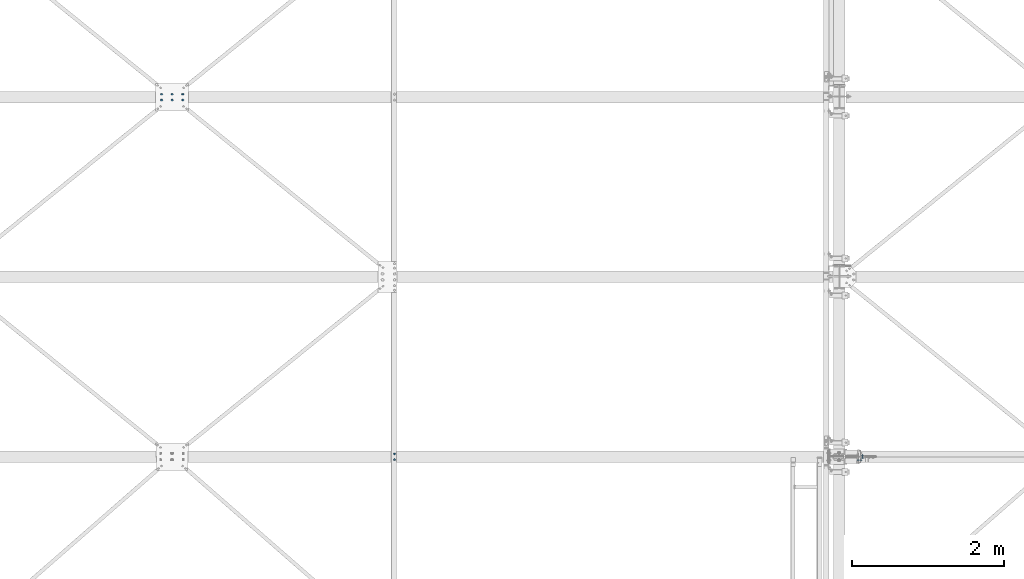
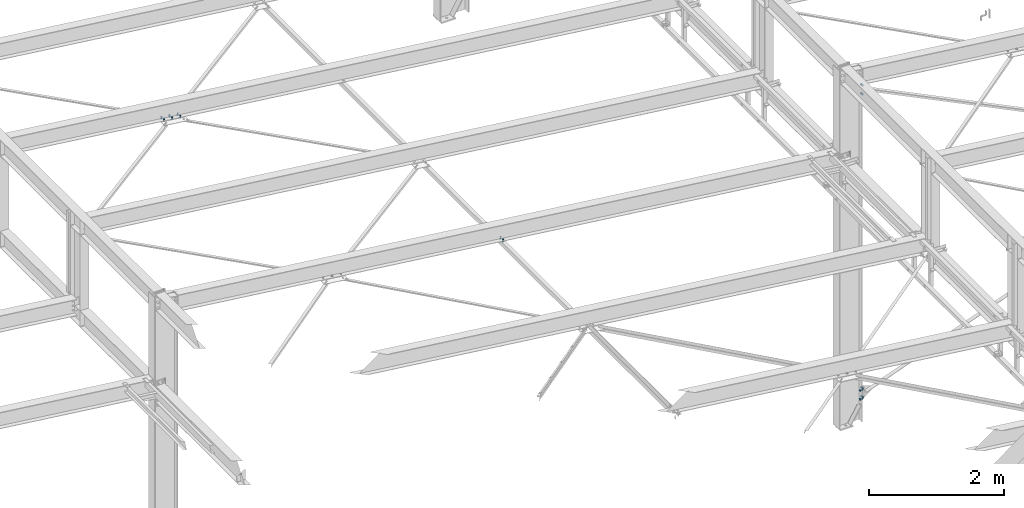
# One storey, part 115 of 3134: 5 mechanical fasteners, 4 elements without a shape of their own.
"""IFC2X3 building model written with IfcOpenShell, lengths in millimetres."""

from ifc_helpers import new_model, si_unit, frame, origin_with_axes, place, context, subcontext, project, spatial, faceted_brep, source, transform, mapped, material, type_object, element, aggregate, save


model = new_model("IFC2X3")

# Units and contexts
model_context = context("Model", 3, precision=1e-05, world=origin_with_axes())
body_context = subcontext(model_context, "Body", "Model", "MODEL_VIEW")
ifc_project = project(units=[si_unit("LENGTHUNIT", "METRE", prefix="MILLI"), si_unit("AREAUNIT", "SQUARE_METRE"), si_unit("VOLUMEUNIT", "CUBIC_METRE"), si_unit("MASSUNIT", "GRAM", prefix="KILO"), si_unit("TIMEUNIT", "SECOND"), si_unit("PLANEANGLEUNIT", "RADIAN"), si_unit("SOLIDANGLEUNIT", "STERADIAN"), si_unit("THERMODYNAMICTEMPERATUREUNIT", "DEGREE_CELSIUS"), si_unit("LUMINOUSINTENSITYUNIT", "LUMEN")], contexts=[model_context])

# Site, building, storey
site_placement = place(None, origin_with_axes())
site = spatial("IfcSite", under=ifc_project, at=site_placement, CompositionType="ELEMENT")
building_placement = place(site_placement, origin_with_axes())
building = spatial("IfcBuilding", under=site, at=building_placement, Name="Undefined", CompositionType="ELEMENT")
storey_placement = place(building_placement, origin_with_axes())
storey = spatial("IfcBuildingStorey", under=building, at=storey_placement, Name="Undefined", CompositionType="ELEMENT", Elevation=0.0)

# Assembly, mechanical fastener
assembly_1_placement = place(storey_placement, origin_with_axes())
assembly_1 = element("IfcElementAssembly", 1, at=assembly_1_placement, inside=storey, AssemblyPlace="NOTDEFINED", PredefinedType="RIGID_FRAME")
ifc_material = material(Name="8.8")
mechanical_fastener_type = type_object("IfcMechanicalFastenerType", Name="Bolt assembly")
shared_shape_1 = source(origin_with_axes(), body_context, "Body", "Brep", [
    faceted_brep([(13.856406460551, -19.199990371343, 0.0), (6.92820323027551, -19.199990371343, 12.0), (-6.92820323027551, -19.199990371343, 12.0), (-13.856406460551, -19.199990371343, 1.69692038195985e-15), (-6.92820323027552, -19.199990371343, -12.0), (6.9282032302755, -19.199990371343, -12.0), (6.9282032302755, -9.19999037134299, -12.0), (-6.92820323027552, -9.19999037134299, -12.0), (-13.856406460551, -9.19999037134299, 1.69692038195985e-15), (-6.92820323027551, -9.19999037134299, 12.0), (6.92820323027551, -9.19999037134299, 12.0), (13.856406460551, -9.19999037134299, 0.0), (8.0, -9.19999037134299, 0.0), (6.92820323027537, -9.19999037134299, 4.00000000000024), (3.99999999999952, -9.19999037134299, 6.92820323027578), (-8.29068785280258e-13, -9.19999037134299, 8.0), (-4.00000000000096, -9.19999037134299, 6.92820323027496), (-6.9282032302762, -9.19999037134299, 3.99999999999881), (-8.0, -9.19999037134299, -1.65813757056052e-12), (-6.92820323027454, -9.19999037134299, -4.00000000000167), (-3.99999999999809, -9.19999037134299, -6.92820323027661), (2.47832457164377e-12, -9.19999037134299, -8.0), (4.00000000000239, -9.19999037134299, -6.92820323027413), (6.92820323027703, -9.19999037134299, -3.99999999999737), (6.92820323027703, 35.8000002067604, -3.99999999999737), (4.00000000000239, 35.8000002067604, -6.92820323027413), (2.47832457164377e-12, 35.8000002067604, -8.0), (-3.99999999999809, 35.8000002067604, -6.92820323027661), (-6.92820323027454, 35.8000002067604, -4.00000000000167), (-8.0, 35.8000002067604, -1.65813757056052e-12), (-6.9282032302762, 35.8000002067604, 3.99999999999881), (-4.00000000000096, 35.8000002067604, 6.92820323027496), (-8.29068785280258e-13, 35.8000002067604, 8.0), (3.99999999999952, 35.8000002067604, 6.92820323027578), (6.92820323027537, 35.8000002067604, 4.00000000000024), (8.0, 35.8000002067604, 0.0), (13.856406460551, 14.9999995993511, 0.0), (6.92820323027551, 14.9999995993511, 12.0), (-6.92820323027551, 14.9999995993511, 12.0), (-13.856406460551, 14.9999995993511, 1.69692038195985e-15), (-6.92820323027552, 14.9999995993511, -12.0), (6.9282032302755, 14.9999995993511, -12.0), (6.9282032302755, 27.9999995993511, -12.0), (-6.92820323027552, 27.9999995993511, -12.0), (-13.856406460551, 27.9999995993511, 1.69692038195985e-15), (-6.92820323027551, 27.9999995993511, 12.0), (6.92820323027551, 27.9999995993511, 12.0), (13.856406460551, 27.9999995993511, 0.0)], [[[0, 1, 2, 3, 4, 5]], [[6, 7, 8, 9, 10, 11]], [[0, 11, 10, 1]], [[1, 10, 9, 2]], [[2, 9, 8, 3]], [[3, 8, 7, 4]], [[4, 7, 6, 5]], [[5, 6, 11, 0]], [[12, 13, 14, 15, 16, 17, 18, 19, 20, 21, 22, 23]], [[24, 25, 26, 27, 28, 29, 30, 31, 32, 33, 34, 35]], [[12, 35, 34, 13]], [[13, 34, 33, 14]], [[14, 33, 32, 15]], [[15, 32, 31, 16]], [[16, 31, 30, 17]], [[17, 30, 29, 18]], [[18, 29, 28, 19]], [[19, 28, 27, 20]], [[20, 27, 26, 21]], [[21, 26, 25, 22]], [[22, 25, 24, 23]], [[23, 24, 35, 12]], [[36, 37, 38, 39, 40, 41]], [[42, 43, 44, 45, 46, 47]], [[36, 47, 46, 37]], [[37, 46, 45, 38]], [[38, 45, 44, 39]], [[39, 44, 43, 40]], [[40, 43, 42, 41]], [[41, 42, 47, 36]]]),
    faceted_brep([(9.0, -9.09999037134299, 0.0), (7.79422863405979, -9.09999037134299, 4.50000000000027), (4.49999999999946, -9.09999037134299, 7.79422863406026), (-9.3270238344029e-13, -9.09999037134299, 9.0), (-4.50000000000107, -9.09999037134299, 7.79422863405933), (-7.79422863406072, -9.09999037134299, 4.49999999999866), (-9.0, -9.09999037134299, -1.86540476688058e-12), (-7.79422863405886, -9.09999037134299, -4.50000000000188), (-4.49999999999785, -9.09999037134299, -7.79422863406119), (2.78811514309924e-12, -9.09999037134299, -9.0), (4.50000000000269, -9.09999037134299, -7.7942286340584), (7.79422863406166, -9.09999037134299, -4.49999999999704), (7.79422863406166, 0.100000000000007, -4.49999999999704), (4.50000000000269, 0.100000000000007, -7.7942286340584), (2.78811514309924e-12, 0.100000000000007, -9.0), (-4.49999999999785, 0.100000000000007, -7.79422863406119), (-7.79422863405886, 0.100000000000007, -4.50000000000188), (-9.0, 0.100000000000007, -1.86540476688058e-12), (-7.79422863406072, 0.100000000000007, 4.49999999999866), (-4.50000000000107, 0.100000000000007, 7.79422863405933), (-9.3270238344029e-13, 0.100000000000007, 9.0), (4.49999999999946, 0.100000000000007, 7.79422863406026), (7.79422863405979, 0.100000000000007, 4.50000000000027), (9.0, 0.100000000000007, 0.0), (9.0, 7.9, 0.0), (7.79422863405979, 7.9, 4.50000000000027), (4.49999999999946, 7.9, 7.79422863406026), (-9.3270238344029e-13, 7.9, 9.0), (-4.50000000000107, 7.9, 7.79422863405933), (-7.79422863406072, 7.9, 4.49999999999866), (-9.0, 7.9, -1.86540476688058e-12), (-7.79422863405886, 7.9, -4.50000000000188), (-4.49999999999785, 7.9, -7.79422863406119), (2.78811514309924e-12, 7.9, -9.0), (4.50000000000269, 7.9, -7.7942286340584), (7.79422863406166, 7.9, -4.49999999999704), (7.79422863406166, 14.9999995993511, -4.49999999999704), (4.50000000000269, 14.9999995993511, -7.7942286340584), (2.78811514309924e-12, 14.9999995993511, -9.0), (-4.49999999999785, 14.9999995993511, -7.79422863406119), (-7.79422863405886, 14.9999995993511, -4.50000000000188), (-9.0, 14.9999995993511, -1.86540476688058e-12), (-7.79422863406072, 14.9999995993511, 4.49999999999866), (-4.50000000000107, 14.9999995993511, 7.79422863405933), (-9.3270238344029e-13, 14.9999995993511, 9.0), (4.49999999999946, 14.9999995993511, 7.79422863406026), (7.79422863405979, 14.9999995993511, 4.50000000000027), (9.0, 14.9999995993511, 0.0)], [[[0, 1, 2, 3, 4, 5, 6, 7, 8, 9, 10, 11]], [[12, 13, 14, 15, 16, 17, 18, 19, 20, 21, 22, 23]], [[0, 23, 22, 1]], [[1, 22, 21, 2]], [[2, 21, 20, 3]], [[3, 20, 19, 4]], [[4, 19, 18, 5]], [[5, 18, 17, 6]], [[6, 17, 16, 7]], [[7, 16, 15, 8]], [[8, 15, 14, 9]], [[9, 14, 13, 10]], [[10, 13, 12, 11]], [[11, 12, 23, 0]], [[24, 25, 26, 27, 28, 29, 30, 31, 32, 33, 34, 35]], [[36, 37, 38, 39, 40, 41, 42, 43, 44, 45, 46, 47]], [[24, 47, 46, 25]], [[25, 46, 45, 26]], [[26, 45, 44, 27]], [[27, 44, 43, 28]], [[28, 43, 42, 29]], [[29, 42, 41, 30]], [[30, 41, 40, 31]], [[31, 40, 39, 32]], [[32, 39, 38, 33]], [[33, 38, 37, 34]], [[34, 37, 36, 35]], [[35, 36, 47, 24]]]),
])
mechanical_fastener_1_placement = place(assembly_1_placement, frame((38362.9849612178, 7612.0, 4806.73358921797), z_axis=(-0.992623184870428, 0.0, 0.121240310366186), x_axis=(0.0, 1.0, 0.0)))
mechanical_fastener_1 = element("IfcMechanicalFastener", 2, at=mechanical_fastener_1_placement, type_object=mechanical_fastener_type, material=ifc_material, Name="Bolt assembly", NominalDiameter=16.0, NominalLength=45.0, context=body_context, shape_type="MappedRepresentation", body=[
    mapped(shared_shape_1, transform((0.0, 0.0, 0.0))),
    mapped(shared_shape_1, transform((76.0, 0.0, 0.0))),
])
aggregate(assembly_1, [mechanical_fastener_1])

assembly_2_placement = place(storey_placement, origin_with_axes())
assembly_2 = element("IfcElementAssembly", 3, at=assembly_2_placement, inside=storey, Name="300", AssemblyPlace="NOTDEFINED", PredefinedType="RIGID_FRAME")
shared_shape_2 = source(origin_with_axes(), body_context, "Body", "Brep", [
    faceted_brep([(10.9696551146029, -17.1999998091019, 0.0), (5.48482755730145, -17.1999998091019, 9.5), (-5.48482755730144, -17.1999998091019, 9.5), (-10.9696551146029, -17.1999998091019, 1.34339530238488e-15), (-5.48482755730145, -17.1999998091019, -9.5), (5.48482755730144, -17.1999998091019, -9.50000000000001), (5.48482755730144, -9.19999978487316, -9.50000000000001), (-5.48482755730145, -9.19999978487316, -9.5), (-10.9696551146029, -9.19999978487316, 1.34339530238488e-15), (-5.48482755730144, -9.19999978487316, 9.5), (5.48482755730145, -9.19999978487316, 9.5), (10.9696551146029, -9.19999978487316, 0.0), (6.0, -9.19999978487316, 0.0), (5.19615242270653, -9.19999978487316, 3.00000000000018), (2.99999999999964, -9.19999978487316, 5.19615242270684), (-6.21801588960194e-13, -9.19999978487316, 6.0), (-3.00000000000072, -9.19999978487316, 5.19615242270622), (-5.19615242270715, -9.19999978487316, 2.9999999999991), (-6.0, -9.19999978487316, -1.24360317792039e-12), (-5.19615242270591, -9.19999978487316, -3.00000000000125), (-2.99999999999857, -9.19999978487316, -5.19615242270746), (1.85874342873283e-12, -9.19999978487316, -6.0), (3.00000000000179, -9.19999978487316, -5.1961524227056), (5.19615242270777, -9.19999978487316, -2.99999999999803), (5.19615242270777, 25.8000002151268, -2.99999999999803), (3.00000000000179, 25.8000002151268, -5.1961524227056), (1.85874342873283e-12, 25.8000002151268, -6.0), (-2.99999999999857, 25.8000002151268, -5.19615242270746), (-5.19615242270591, 25.8000002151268, -3.00000000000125), (-6.0, 25.8000002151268, -1.24360317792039e-12), (-5.19615242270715, 25.8000002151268, 2.9999999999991), (-3.00000000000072, 25.8000002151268, 5.19615242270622), (-6.21801588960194e-13, 25.8000002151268, 6.0), (2.99999999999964, 25.8000002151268, 5.19615242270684), (5.19615242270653, 25.8000002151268, 3.00000000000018), (6.0, 25.8000002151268, 0.0), (10.9696551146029, 8.0, 0.0), (5.48482755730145, 8.0, 9.5), (-5.48482755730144, 8.0, 9.5), (-10.9696551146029, 8.0, 1.34339530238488e-15), (-5.48482755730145, 8.0, -9.5), (5.48482755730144, 8.0, -9.50000000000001), (5.48482755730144, 18.0, -9.50000000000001), (-5.48482755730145, 18.0, -9.5), (-10.9696551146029, 18.0, 1.34339530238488e-15), (-5.48482755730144, 18.0, 9.5), (5.48482755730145, 18.0, 9.5), (10.9696551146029, 18.0, 0.0)], [[[0, 1, 2, 3, 4, 5]], [[6, 7, 8, 9, 10, 11]], [[0, 11, 10, 1]], [[1, 10, 9, 2]], [[2, 9, 8, 3]], [[3, 8, 7, 4]], [[4, 7, 6, 5]], [[5, 6, 11, 0]], [[12, 13, 14, 15, 16, 17, 18, 19, 20, 21, 22, 23]], [[24, 25, 26, 27, 28, 29, 30, 31, 32, 33, 34, 35]], [[12, 35, 34, 13]], [[13, 34, 33, 14]], [[14, 33, 32, 15]], [[15, 32, 31, 16]], [[16, 31, 30, 17]], [[17, 30, 29, 18]], [[18, 29, 28, 19]], [[19, 28, 27, 20]], [[20, 27, 26, 21]], [[21, 26, 25, 22]], [[22, 25, 24, 23]], [[23, 24, 35, 12]], [[36, 37, 38, 39, 40, 41]], [[42, 43, 44, 45, 46, 47]], [[36, 47, 46, 37]], [[37, 46, 45, 38]], [[38, 45, 44, 39]], [[39, 44, 43, 40]], [[40, 43, 42, 41]], [[41, 42, 47, 36]]]),
    faceted_brep([(7.0, -0.1, 0.0), (6.06217782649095, -0.1, 3.50000000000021), (3.49999999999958, -0.1, 6.06217782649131), (-7.25435187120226e-13, -0.1, 7.0), (-3.50000000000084, -0.1, 6.06217782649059), (-6.06217782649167, -0.1, 3.49999999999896), (-7.0, -0.1, -1.45087037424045e-12), (-6.06217782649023, -0.1, -3.50000000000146), (-3.49999999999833, -0.1, -6.06217782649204), (2.1685340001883e-12, -0.1, -7.0), (3.50000000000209, -0.1, -6.06217782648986), (6.0621778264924, -0.1, -3.4999999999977), (6.0621778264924, 8.0000000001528, -3.4999999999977), (3.50000000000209, 8.0000000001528, -6.06217782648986), (2.1685340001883e-12, 8.0000000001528, -7.0), (-3.49999999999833, 8.0000000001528, -6.06217782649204), (-6.06217782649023, 8.0000000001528, -3.50000000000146), (-7.0, 8.0000000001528, -1.45087037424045e-12), (-6.06217782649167, 8.0000000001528, 3.49999999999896), (-3.50000000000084, 8.0000000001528, 6.06217782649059), (-7.25435187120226e-13, 8.0000000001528, 7.0), (3.49999999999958, 8.0000000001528, 6.06217782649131), (6.06217782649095, 8.0000000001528, 3.50000000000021), (7.0, 8.0000000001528, 0.0), (7.0, -9.09999980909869, 0.0), (6.06217782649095, -9.09999980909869, 3.50000000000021), (3.49999999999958, -9.09999980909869, 6.06217782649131), (-7.25435187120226e-13, -9.09999980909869, 7.0), (-3.50000000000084, -9.09999980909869, 6.06217782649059), (-6.06217782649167, -9.09999980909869, 3.49999999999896), (-7.0, -9.09999980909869, -1.45087037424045e-12), (-6.06217782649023, -9.09999980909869, -3.50000000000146), (-3.49999999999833, -9.09999980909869, -6.06217782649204), (2.1685340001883e-12, -9.09999980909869, -7.0), (3.50000000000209, -9.09999980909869, -6.06217782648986), (6.0621778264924, -9.09999980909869, -3.4999999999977), (6.0621778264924, 0.0999999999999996, -3.4999999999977), (3.50000000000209, 0.0999999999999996, -6.06217782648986), (2.1685340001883e-12, 0.0999999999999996, -7.0), (-3.49999999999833, 0.0999999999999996, -6.06217782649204), (-6.06217782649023, 0.0999999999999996, -3.50000000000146), (-7.0, 0.0999999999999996, -1.45087037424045e-12), (-6.06217782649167, 0.0999999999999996, 3.49999999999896), (-3.50000000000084, 0.0999999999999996, 6.06217782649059), (-7.25435187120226e-13, 0.0999999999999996, 7.0), (3.49999999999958, 0.0999999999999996, 6.06217782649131), (6.06217782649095, 0.0999999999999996, 3.50000000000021), (7.0, 0.0999999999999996, 0.0)], [[[0, 1, 2, 3, 4, 5, 6, 7, 8, 9, 10, 11]], [[12, 13, 14, 15, 16, 17, 18, 19, 20, 21, 22, 23]], [[0, 23, 22, 1]], [[1, 22, 21, 2]], [[2, 21, 20, 3]], [[3, 20, 19, 4]], [[4, 19, 18, 5]], [[5, 18, 17, 6]], [[6, 17, 16, 7]], [[7, 16, 15, 8]], [[8, 15, 14, 9]], [[9, 14, 13, 10]], [[10, 13, 12, 11]], [[11, 12, 23, 0]], [[24, 25, 26, 27, 28, 29, 30, 31, 32, 33, 34, 35]], [[36, 37, 38, 39, 40, 41, 42, 43, 44, 45, 46, 47]], [[24, 47, 46, 25]], [[25, 46, 45, 26]], [[26, 45, 44, 27]], [[27, 44, 43, 28]], [[28, 43, 42, 29]], [[29, 42, 41, 30]], [[30, 41, 40, 31]], [[31, 40, 39, 32]], [[32, 39, 38, 33]], [[33, 38, 37, 34]], [[34, 37, 36, 35]], [[35, 36, 47, 24]]]),
])
mechanical_fastener_2_placement = place(assembly_2_placement, frame((35583.2022067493, 12370.0, 5146.259936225), z_axis=(0.0, -1.0, 0.0), x_axis=(-0.992623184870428, 0.0, 0.121240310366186)))
mechanical_fastener_2 = element("IfcMechanicalFastener", 4, at=mechanical_fastener_2_placement, type_object=mechanical_fastener_type, material=ifc_material, Name="Bolt assembly", NominalDiameter=12.0, NominalLength=35.0, context=body_context, shape_type="MappedRepresentation", body=[
    mapped(shared_shape_2, transform((0.0, 0.0, -38.0))),
    mapped(shared_shape_2, transform((140.000000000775, 5.85714587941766e-10, -38.0))),
    mapped(shared_shape_2, transform((279.999999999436, -4.74756234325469e-10, -38.0))),
    mapped(shared_shape_2, transform((0.0, 0.0, 38.0))),
    mapped(shared_shape_2, transform((140.000000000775, 5.85714587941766e-10, 38.0))),
    mapped(shared_shape_2, transform((279.999999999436, -4.74756234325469e-10, 38.0))),
])
aggregate(assembly_2, [mechanical_fastener_2])

assembly_3_placement = place(storey_placement, origin_with_axes())
assembly_3 = element("IfcElementAssembly", 5, at=assembly_3_placement, inside=storey, AssemblyPlace="NOTDEFINED", PredefinedType="RIGID_FRAME")
shared_shape_3 = source(origin_with_axes(), body_context, "Body", "Brep", [
    faceted_brep([(13.856406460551, -21.0000017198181, 0.0), (6.92820323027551, -21.0000017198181, 12.0), (-6.92820323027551, -21.0000017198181, 12.0), (-13.856406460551, -21.0000017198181, 1.69692038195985e-15), (-6.92820323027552, -21.0000017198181, -12.0), (6.9282032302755, -21.0000017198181, -12.0), (6.9282032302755, -11.0000017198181, -12.0), (-6.92820323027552, -11.0000017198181, -12.0), (-13.856406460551, -11.0000017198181, 1.69692038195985e-15), (-6.92820323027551, -11.0000017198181, 12.0), (6.92820323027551, -11.0000017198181, 12.0), (13.856406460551, -11.0000017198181, 0.0), (8.0, -11.0000017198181, 0.0), (6.92820323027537, -11.0000017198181, 4.00000000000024), (3.99999999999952, -11.0000017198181, 6.92820323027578), (-8.29068785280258e-13, -11.0000017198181, 8.0), (-4.00000000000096, -11.0000017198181, 6.92820323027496), (-6.9282032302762, -11.0000017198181, 3.99999999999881), (-8.0, -11.0000017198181, -1.65813757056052e-12), (-6.92820323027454, -11.0000017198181, -4.00000000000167), (-3.99999999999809, -11.0000017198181, -6.92820323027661), (2.47832457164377e-12, -11.0000017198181, -8.0), (4.00000000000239, -11.0000017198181, -6.92820323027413), (6.92820323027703, -11.0000017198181, -3.99999999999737), (6.92820323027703, 29.0, -3.99999999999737), (4.00000000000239, 29.0, -6.92820323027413), (2.47832457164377e-12, 29.0, -8.0), (-3.99999999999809, 29.0, -6.92820323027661), (-6.92820323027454, 29.0, -4.00000000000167), (-8.0, 29.0, -1.65813757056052e-12), (-6.9282032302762, 29.0, 3.99999999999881), (-4.00000000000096, 29.0, 6.92820323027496), (-8.29068785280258e-13, 29.0, 8.0), (3.99999999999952, 29.0, 6.92820323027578), (6.92820323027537, 29.0, 4.00000000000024), (8.0, 29.0, 0.0), (13.856406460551, 10.9999982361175, 0.0), (6.92820323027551, 10.9999982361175, 12.0), (-6.92820323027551, 10.9999982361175, 12.0), (-13.856406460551, 10.9999982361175, 1.69692038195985e-15), (-6.92820323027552, 10.9999982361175, -12.0), (6.9282032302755, 10.9999982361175, -12.0), (6.9282032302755, 23.9999999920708, -12.0), (-6.92820323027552, 23.9999999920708, -12.0), (-13.856406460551, 23.9999999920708, 1.69692038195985e-15), (-6.92820323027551, 23.9999999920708, 12.0), (6.92820323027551, 23.9999999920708, 12.0), (13.856406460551, 23.9999999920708, 0.0)], [[[0, 1, 2, 3, 4, 5]], [[6, 7, 8, 9, 10, 11]], [[0, 11, 10, 1]], [[1, 10, 9, 2]], [[2, 9, 8, 3]], [[3, 8, 7, 4]], [[4, 7, 6, 5]], [[5, 6, 11, 0]], [[12, 13, 14, 15, 16, 17, 18, 19, 20, 21, 22, 23]], [[24, 25, 26, 27, 28, 29, 30, 31, 32, 33, 34, 35]], [[12, 35, 34, 13]], [[13, 34, 33, 14]], [[14, 33, 32, 15]], [[15, 32, 31, 16]], [[16, 31, 30, 17]], [[17, 30, 29, 18]], [[18, 29, 28, 19]], [[19, 28, 27, 20]], [[20, 27, 26, 21]], [[21, 26, 25, 22]], [[22, 25, 24, 23]], [[23, 24, 35, 12]], [[36, 37, 38, 39, 40, 41]], [[42, 43, 44, 45, 46, 47]], [[36, 47, 46, 37]], [[37, 46, 45, 38]], [[38, 45, 44, 39]], [[39, 44, 43, 40]], [[40, 43, 42, 41]], [[41, 42, 47, 36]]]),
    faceted_brep([(9.0, -3.99999624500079, 0.0), (7.79422863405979, -3.99999624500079, 4.50000000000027), (4.49999999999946, -3.99999624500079, 7.79422863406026), (-9.3270238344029e-13, -3.99999624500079, 9.0), (-4.50000000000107, -3.99999624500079, 7.79422863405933), (-7.79422863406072, -3.99999624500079, 4.49999999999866), (-9.0, -3.99999624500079, -1.86540476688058e-12), (-7.79422863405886, -3.99999624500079, -4.50000000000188), (-4.49999999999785, -3.99999624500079, -7.79422863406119), (2.78811514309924e-12, -3.99999624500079, -9.0), (4.50000000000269, -3.99999624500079, -7.7942286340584), (7.79422863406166, -3.99999624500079, -4.49999999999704), (7.79422863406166, 4.00000375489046, -4.49999999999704), (4.50000000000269, 4.00000375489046, -7.7942286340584), (2.78811514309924e-12, 4.00000375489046, -9.0), (-4.49999999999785, 4.00000375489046, -7.79422863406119), (-7.79422863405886, 4.00000375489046, -4.50000000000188), (-9.0, 4.00000375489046, -1.86540476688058e-12), (-7.79422863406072, 4.00000375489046, 4.49999999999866), (-4.50000000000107, 4.00000375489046, 7.79422863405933), (-9.3270238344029e-13, 4.00000375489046, 9.0), (4.49999999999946, 4.00000375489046, 7.79422863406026), (7.79422863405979, 4.00000375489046, 4.50000000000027), (9.0, 4.00000375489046, 0.0), (9.0, -10.9000017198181, 0.0), (7.79422863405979, -10.9000017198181, 4.50000000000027), (4.49999999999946, -10.9000017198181, 7.79422863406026), (-9.3270238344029e-13, -10.9000017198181, 9.0), (-4.50000000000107, -10.9000017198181, 7.79422863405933), (-7.79422863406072, -10.9000017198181, 4.49999999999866), (-9.0, -10.9000017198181, -1.86540476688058e-12), (-7.79422863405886, -10.9000017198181, -4.50000000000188), (-4.49999999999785, -10.9000017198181, -7.79422863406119), (2.78811514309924e-12, -10.9000017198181, -9.0), (4.50000000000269, -10.9000017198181, -7.7942286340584), (7.79422863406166, -10.9000017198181, -4.49999999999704), (7.79422863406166, -3.9, -4.49999999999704), (4.50000000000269, -3.9, -7.7942286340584), (2.78811514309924e-12, -3.9, -9.0), (-4.49999999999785, -3.9, -7.79422863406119), (-7.79422863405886, -3.9, -4.50000000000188), (-9.0, -3.9, -1.86540476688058e-12), (-7.79422863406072, -3.9, 4.49999999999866), (-4.50000000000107, -3.9, 7.79422863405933), (-9.3270238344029e-13, -3.9, 9.0), (4.49999999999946, -3.9, 7.79422863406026), (7.79422863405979, -3.9, 4.50000000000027), (9.0, -3.9, 0.0), (9.0, 3.9, 0.0), (7.79422863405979, 3.9, 4.50000000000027), (4.49999999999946, 3.9, 7.79422863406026), (-9.3270238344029e-13, 3.9, 9.0), (-4.50000000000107, 3.9, 7.79422863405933), (-7.79422863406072, 3.9, 4.49999999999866), (-9.0, 3.9, -1.86540476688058e-12), (-7.79422863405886, 3.9, -4.50000000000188), (-4.49999999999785, 3.9, -7.79422863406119), (2.78811514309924e-12, 3.9, -9.0), (4.50000000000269, 3.9, -7.7942286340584), (7.79422863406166, 3.9, -4.49999999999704), (7.79422863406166, 10.9999982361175, -4.49999999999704), (4.50000000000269, 10.9999982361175, -7.7942286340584), (2.78811514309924e-12, 10.9999982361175, -9.0), (-4.49999999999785, 10.9999982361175, -7.79422863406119), (-7.79422863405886, 10.9999982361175, -4.50000000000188), (-9.0, 10.9999982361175, -1.86540476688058e-12), (-7.79422863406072, 10.9999982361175, 4.49999999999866), (-4.50000000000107, 10.9999982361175, 7.79422863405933), (-9.3270238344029e-13, 10.9999982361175, 9.0), (4.49999999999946, 10.9999982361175, 7.79422863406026), (7.79422863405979, 10.9999982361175, 4.50000000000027), (9.0, 10.9999982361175, 0.0)], [[[0, 1, 2, 3, 4, 5, 6, 7, 8, 9, 10, 11]], [[12, 13, 14, 15, 16, 17, 18, 19, 20, 21, 22, 23]], [[0, 23, 22, 1]], [[1, 22, 21, 2]], [[2, 21, 20, 3]], [[3, 20, 19, 4]], [[4, 19, 18, 5]], [[5, 18, 17, 6]], [[6, 17, 16, 7]], [[7, 16, 15, 8]], [[8, 15, 14, 9]], [[9, 14, 13, 10]], [[10, 13, 12, 11]], [[11, 12, 23, 0]], [[24, 25, 26, 27, 28, 29, 30, 31, 32, 33, 34, 35]], [[36, 37, 38, 39, 40, 41, 42, 43, 44, 45, 46, 47]], [[24, 47, 46, 25]], [[25, 46, 45, 26]], [[26, 45, 44, 27]], [[27, 44, 43, 28]], [[28, 43, 42, 29]], [[29, 42, 41, 30]], [[30, 41, 40, 31]], [[31, 40, 39, 32]], [[32, 39, 38, 33]], [[33, 38, 37, 34]], [[34, 37, 36, 35]], [[35, 36, 47, 24]], [[48, 49, 50, 51, 52, 53, 54, 55, 56, 57, 58, 59]], [[60, 61, 62, 63, 64, 65, 66, 67, 68, 69, 70, 71]], [[48, 71, 70, 49]], [[49, 70, 69, 50]], [[50, 69, 68, 51]], [[51, 68, 67, 52]], [[52, 67, 66, 53]], [[53, 66, 65, 54]], [[54, 65, 64, 55]], [[55, 64, 63, 56]], [[56, 63, 62, 57]], [[57, 62, 61, 58]], [[58, 61, 60, 59]], [[59, 60, 71, 48]]]),
])
mechanical_fastener_3_placement = place(assembly_3_placement, frame((44504.9962469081, 7650.0, -30.0004844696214), z_axis=(0.999999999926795, 0.0, -1.21000012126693e-05), x_axis=(-1.21000012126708e-05, 0.0, -0.999999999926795)))
mechanical_fastener_3 = element("IfcMechanicalFastener", 6, at=mechanical_fastener_3_placement, type_object=mechanical_fastener_type, material=ifc_material, Name="Bolt assembly", NominalDiameter=16.0, NominalLength=40.0, context=body_context, shape_type="MappedRepresentation", body=[
    mapped(shared_shape_3, transform((0.0, 0.0, 0.0))),
    mapped(shared_shape_3, transform((160.0, 0.0, 0.0))),
])

assembly_4_placement = place(storey_placement, origin_with_axes())
assembly_4 = element("IfcElementAssembly", 7, at=assembly_4_placement, inside=storey, AssemblyPlace="NOTDEFINED", PredefinedType="RIGID_FRAME")
mechanical_fastener_4_placement = place(assembly_4_placement, frame((44504.9999999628, 7650.0, 5429.36590687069), z_axis=(1.0, 0.0, 0.0), x_axis=(0.0, 0.0, -1.0)))
mechanical_fastener_4 = element("IfcMechanicalFastener", 8, at=mechanical_fastener_4_placement, type_object=mechanical_fastener_type, material=ifc_material, Name="Bolt assembly", NominalDiameter=16.0, NominalLength=40.0, context=body_context, shape_type="MappedRepresentation", body=[
    mapped(shared_shape_3, transform((0.0, 0.0, 0.0))),
    mapped(shared_shape_3, transform((160.0, 0.0, 0.0))),
])
aggregate(assembly_4, [mechanical_fastener_4])

# Mechanical fastener
shared_shape_4 = source(origin_with_axes(), body_context, "Body", "Brep", [
    faceted_brep([(13.856406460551, -23.4899999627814, 0.0), (6.92820323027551, -23.4899999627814, 12.0), (-6.92820323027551, -23.4899999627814, 12.0), (-13.856406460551, -23.4899999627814, 1.69692038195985e-15), (-6.92820323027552, -23.4899999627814, -12.0), (6.9282032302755, -23.4899999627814, -12.0), (6.9282032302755, -13.4899999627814, -12.0), (-6.92820323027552, -13.4899999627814, -12.0), (-13.856406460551, -13.4899999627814, 1.69692038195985e-15), (-6.92820323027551, -13.4899999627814, 12.0), (6.92820323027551, -13.4899999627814, 12.0), (13.856406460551, -13.4899999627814, 0.0), (8.0, -13.4899999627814, 0.0), (6.92820323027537, -13.4899999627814, 4.00000000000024), (3.99999999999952, -13.4899999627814, 6.92820323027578), (-8.29068785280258e-13, -13.4899999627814, 8.0), (-4.00000000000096, -13.4899999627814, 6.92820323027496), (-6.9282032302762, -13.4899999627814, 3.99999999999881), (-8.0, -13.4899999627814, -1.65813757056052e-12), (-6.92820323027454, -13.4899999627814, -4.00000000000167), (-3.99999999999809, -13.4899999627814, -6.92820323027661), (2.47832457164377e-12, -13.4899999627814, -8.0), (4.00000000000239, -13.4899999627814, -6.92820323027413), (6.92820323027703, -13.4899999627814, -3.99999999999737), (6.92820323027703, 26.5100000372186, -3.99999999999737), (4.00000000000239, 26.5100000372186, -6.92820323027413), (2.47832457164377e-12, 26.5100000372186, -8.0), (-3.99999999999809, 26.5100000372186, -6.92820323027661), (-6.92820323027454, 26.5100000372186, -4.00000000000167), (-8.0, 26.5100000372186, -1.65813757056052e-12), (-6.9282032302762, 26.5100000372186, 3.99999999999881), (-4.00000000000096, 26.5100000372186, 6.92820323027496), (-8.29068785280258e-13, 26.5100000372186, 8.0), (3.99999999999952, 26.5100000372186, 6.92820323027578), (6.92820323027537, 26.5100000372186, 4.00000000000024), (8.0, 26.5100000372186, 0.0), (13.856406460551, 7.00624984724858, 0.0), (6.92820323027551, 7.00624984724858, 12.0), (-6.92820323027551, 7.00624984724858, 12.0), (-13.856406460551, 7.00624984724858, 1.69692038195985e-15), (-6.92820323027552, 7.00624984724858, -12.0), (6.9282032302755, 7.00624984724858, -12.0), (6.9282032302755, 20.0062498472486, -12.0), (-6.92820323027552, 20.0062498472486, -12.0), (-13.856406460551, 20.0062498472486, 1.69692038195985e-15), (-6.92820323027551, 20.0062498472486, 12.0), (6.92820323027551, 20.0062498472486, 12.0), (13.856406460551, 20.0062498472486, 0.0)], [[[0, 1, 2, 3, 4, 5]], [[6, 7, 8, 9, 10, 11]], [[0, 11, 10, 1]], [[1, 10, 9, 2]], [[2, 9, 8, 3]], [[3, 8, 7, 4]], [[4, 7, 6, 5]], [[5, 6, 11, 0]], [[12, 13, 14, 15, 16, 17, 18, 19, 20, 21, 22, 23]], [[24, 25, 26, 27, 28, 29, 30, 31, 32, 33, 34, 35]], [[12, 35, 34, 13]], [[13, 34, 33, 14]], [[14, 33, 32, 15]], [[15, 32, 31, 16]], [[16, 31, 30, 17]], [[17, 30, 29, 18]], [[18, 29, 28, 19]], [[19, 28, 27, 20]], [[20, 27, 26, 21]], [[21, 26, 25, 22]], [[22, 25, 24, 23]], [[23, 24, 35, 12]], [[36, 37, 38, 39, 40, 41]], [[42, 43, 44, 45, 46, 47]], [[36, 47, 46, 37]], [[37, 46, 45, 38]], [[38, 45, 44, 39]], [[39, 44, 43, 40]], [[40, 43, 42, 41]], [[41, 42, 47, 36]]]),
    faceted_brep([(9.0, -13.3899999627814, 0.0), (7.79422863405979, -13.3899999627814, 4.50000000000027), (4.49999999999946, -13.3899999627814, 7.79422863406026), (-9.3270238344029e-13, -13.3899999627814, 9.0), (-4.50000000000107, -13.3899999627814, 7.79422863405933), (-7.79422863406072, -13.3899999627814, 4.49999999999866), (-9.0, -13.3899999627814, -1.86540476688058e-12), (-7.79422863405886, -13.3899999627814, -4.50000000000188), (-4.49999999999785, -13.3899999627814, -7.79422863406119), (2.78811514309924e-12, -13.3899999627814, -9.0), (4.50000000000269, -13.3899999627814, -7.7942286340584), (7.79422863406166, -13.3899999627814, -4.49999999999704), (7.79422863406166, 0.11000003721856, -4.49999999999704), (4.50000000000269, 0.11000003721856, -7.7942286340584), (2.78811514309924e-12, 0.11000003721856, -9.0), (-4.49999999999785, 0.11000003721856, -7.79422863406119), (-7.79422863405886, 0.11000003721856, -4.50000000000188), (-9.0, 0.11000003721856, -1.86540476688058e-12), (-7.79422863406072, 0.11000003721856, 4.49999999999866), (-4.50000000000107, 0.11000003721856, 7.79422863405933), (-9.3270238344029e-13, 0.11000003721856, 9.0), (4.49999999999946, 0.11000003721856, 7.79422863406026), (7.79422863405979, 0.11000003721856, 4.50000000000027), (9.0, 0.11000003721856, 0.0), (9.0, -0.0937501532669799, 0.0), (7.79422863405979, -0.0937501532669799, 4.50000000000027), (4.49999999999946, -0.0937501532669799, 7.79422863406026), (-9.3270238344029e-13, -0.0937501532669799, 9.0), (-4.50000000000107, -0.0937501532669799, 7.79422863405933), (-7.79422863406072, -0.0937501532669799, 4.49999999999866), (-9.0, -0.0937501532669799, -1.86540476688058e-12), (-7.79422863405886, -0.0937501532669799, -4.50000000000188), (-4.49999999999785, -0.0937501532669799, -7.79422863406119), (2.78811514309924e-12, -0.0937501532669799, -9.0), (4.50000000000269, -0.0937501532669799, -7.7942286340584), (7.79422863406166, -0.0937501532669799, -4.49999999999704), (7.79422863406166, 7.00624984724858, -4.49999999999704), (4.50000000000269, 7.00624984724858, -7.7942286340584), (2.78811514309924e-12, 7.00624984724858, -9.0), (-4.49999999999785, 7.00624984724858, -7.79422863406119), (-7.79422863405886, 7.00624984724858, -4.50000000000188), (-9.0, 7.00624984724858, -1.86540476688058e-12), (-7.79422863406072, 7.00624984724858, 4.49999999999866), (-4.50000000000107, 7.00624984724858, 7.79422863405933), (-9.3270238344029e-13, 7.00624984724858, 9.0), (4.49999999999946, 7.00624984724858, 7.79422863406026), (7.79422863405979, 7.00624984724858, 4.50000000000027), (9.0, 7.00624984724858, 0.0)], [[[0, 1, 2, 3, 4, 5, 6, 7, 8, 9, 10, 11]], [[12, 13, 14, 15, 16, 17, 18, 19, 20, 21, 22, 23]], [[0, 23, 22, 1]], [[1, 22, 21, 2]], [[2, 21, 20, 3]], [[3, 20, 19, 4]], [[4, 19, 18, 5]], [[5, 18, 17, 6]], [[6, 17, 16, 7]], [[7, 16, 15, 8]], [[8, 15, 14, 9]], [[9, 14, 13, 10]], [[10, 13, 12, 11]], [[11, 12, 23, 0]], [[24, 25, 26, 27, 28, 29, 30, 31, 32, 33, 34, 35]], [[36, 37, 38, 39, 40, 41, 42, 43, 44, 45, 46, 47]], [[24, 47, 46, 25]], [[25, 46, 45, 26]], [[26, 45, 44, 27]], [[27, 44, 43, 28]], [[28, 43, 42, 29]], [[29, 42, 41, 30]], [[30, 41, 40, 31]], [[31, 40, 39, 32]], [[32, 39, 38, 33]], [[33, 38, 37, 34]], [[34, 37, 36, 35]], [[35, 36, 47, 24]]]),
])
mechanical_fastener_5_placement = place(assembly_3_placement, frame((44464.9899999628, 7650.0, -30.0040931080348), z_axis=(0.0, -1.0, 0.0), x_axis=(0.0, 0.0, -1.0)))
mechanical_fastener_5 = element("IfcMechanicalFastener", 9, at=mechanical_fastener_5_placement, type_object=mechanical_fastener_type, material=ifc_material, Name="Bolt assembly", NominalDiameter=16.0, NominalLength=40.0, context=body_context, shape_type="MappedRepresentation", body=[
    mapped(shared_shape_4, transform((0.0, 0.0, 45.0))),
    mapped(shared_shape_4, transform((160.0, 0.0, 45.0))),
])

aggregate(assembly_3, [mechanical_fastener_3, mechanical_fastener_5])

save(model, "model.ifc")
